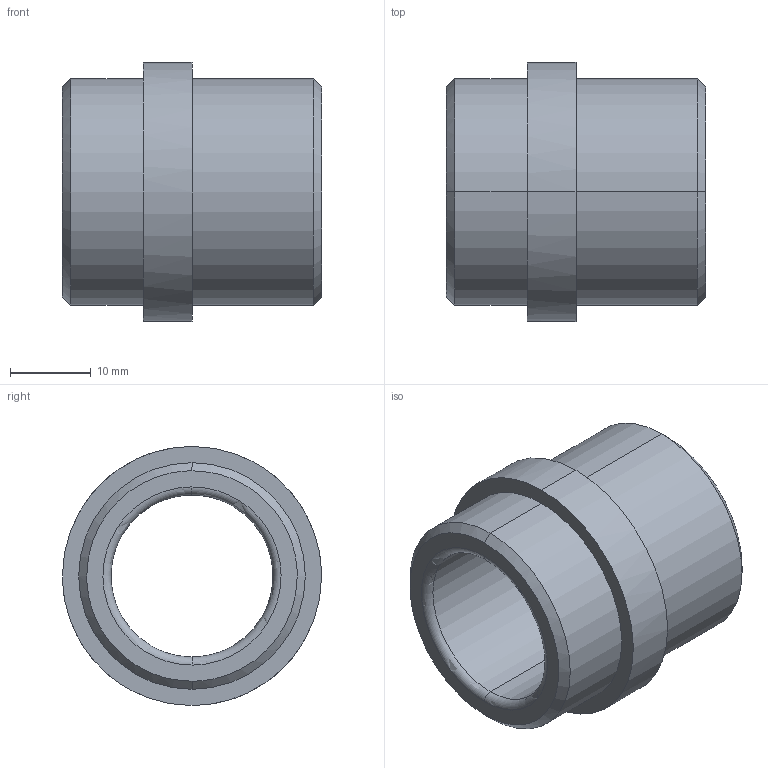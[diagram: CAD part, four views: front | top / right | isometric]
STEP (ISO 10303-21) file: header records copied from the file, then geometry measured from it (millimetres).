
FILE_DESCRIPTION(('CATIA V5 STEP Exchange'),'2;1');
FILE_NAME('C:\Users\Utente\Desktop\IO LAVORO\3D X SITO CF\X SITO\PLASTICA\G403\G403-20X32.stp','2021-04-21T11:30:35+00:00',('none'),('none'),'CATIA Version 5 Release 20 GA (IN-10)','CATIA V5 STEP AP203','none');
FILE_SCHEMA(('CONFIG_CONTROL_DESIGN'));
Length unit declared in the file: millimetre
Products named in the file (1): G403-20X32
Bounding box: 32 x 32 x 32 mm (x, y, z)
Volume: 10668.5 mm3; surface area: 5722.4 mm2
Topology: 1 solids, 1 shells, 20 faces, 64 edges, 48 vertices
Faces by surface type: cylinder 8, plane 4, cone 4, torus 4
Entity records: 906 total; most frequent: CARTESIAN_POINT 301, ORIENTED_EDGE 128, DIRECTION 92, EDGE_CURVE 64, AXIS2_PLACEMENT_3D 61, VERTEX_POINT 48, CIRCLE 40, EDGE_LOOP 24
